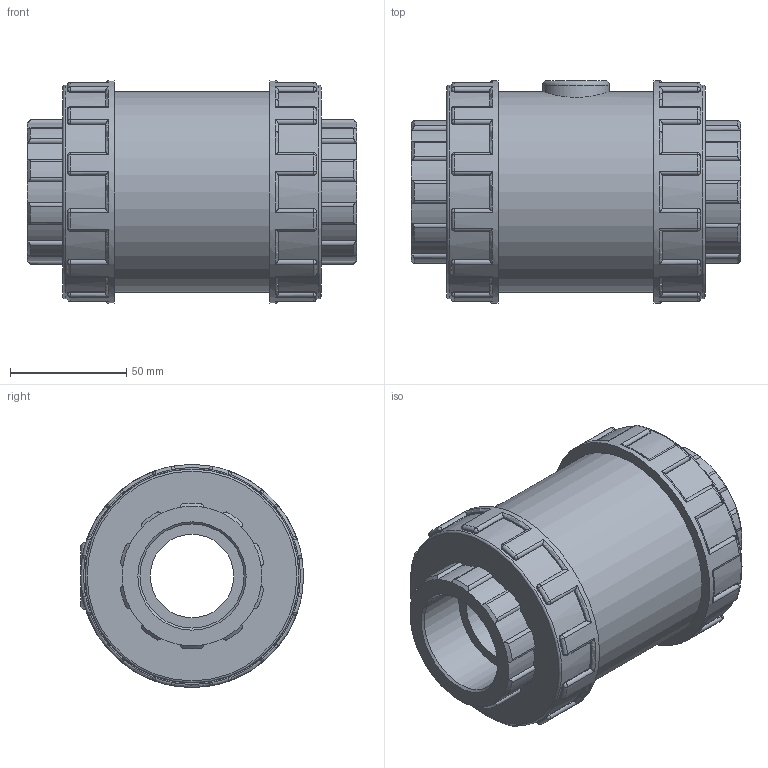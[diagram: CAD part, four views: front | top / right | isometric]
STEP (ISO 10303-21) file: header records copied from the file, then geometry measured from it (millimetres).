
FILE_DESCRIPTION(/* description */ ('PLASSON AIR RELEASE VALVE THR PVC 1.1/2"'),/* implementation_level */ '2;1');
FILE_NAME(/* name */ 'C:\Dropbox\KIMPROJECTS-Inventor\99-16-3568-Processing\PVC Catalog 2017\116310 - 116910\116310015.ipt.stp',/* time_stamp */ '2017-12-07T16:13:48+02:00',/* author */ ('KIM'),/* organization */ (''),/* preprocessor_version */ 'ST-DEVELOPER v15.6',/* originating_system */ 'Autodesk Inventor 2015',/* authorisation */ '');
FILE_SCHEMA (('AUTOMOTIVE_DESIGN { 1 0 10303 214 3 1 1 }'));
Length unit declared in the file: millimetre
Products named in the file (1): 116310015
Bounding box: 142 x 96 x 96 mm (x, y, z)
Volume: 624377.3 mm3; surface area: 70725.8 mm2
Topology: 1 solids, 1 shells, 411 faces, 1021 edges, 618 vertices
Faces by surface type: cylinder 185, plane 105, torus 51, sphere 48, cone 22
Full cylindrical faces by diameter (mm): 28.8 x1, 35.876 x1, 44.845 x2, 86.4 x1, 92.16 x2, 96 x2
Entity records: 13394 total; most frequent: CARTESIAN_POINT 3615, DIRECTION 2180, ORIENTED_EDGE 1998, EDGE_CURVE 999, AXIS2_PLACEMENT_3D 906, VERTEX_POINT 611, CIRCLE 494, EDGE_LOOP 434
